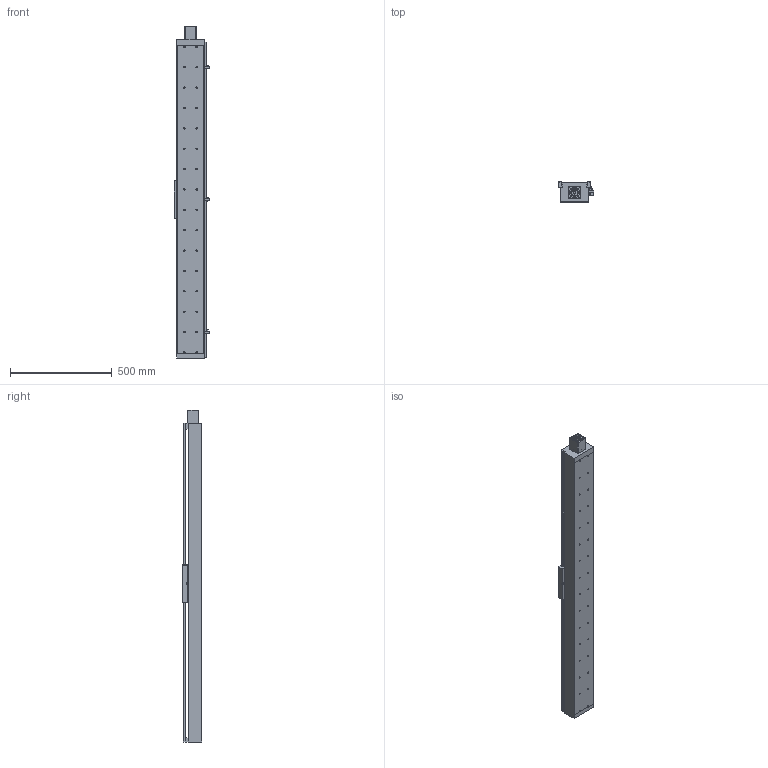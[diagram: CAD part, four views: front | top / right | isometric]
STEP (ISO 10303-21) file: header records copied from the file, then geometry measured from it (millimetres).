
FILE_DESCRIPTION((''),'2;1');
FILE_NAME('E:\libraries\UIA actuator library 2009\standard actuator\UIA136 ball screw 20\UIA136R15NDC stp file 27Apr16\UIA136R15NDC-1300-R20_ _-M60-P13-C10-S.stp','2016-04-27T15:47:51',('h029'),(''),'Autodesk Inventor 11','Autodesk Inventor 11','');
FILE_SCHEMA(('AUTOMOTIVE_DESIGN { 1 0 10303 214 1 1 1 1 }'));
Length unit declared in the file: millimetre
Products named in the file (10): UIA136R15NDC-1300; UIA136R15NDC-body; motor mount F60; SOH-32C; SOH-32C-3; SOH-32C-1; SOH-32C-2; Carriage; Sensor Switch; sensor rail
Assembly tree (9 placements, depth 3):
  UIA136R15NDC-1300
    UIA136R15NDC-body
    motor mount F60
    SOH-32C
      SOH-32C-3
      SOH-32C-1
      SOH-32C-2
    Carriage
    Sensor Switch
    sensor rail
Bounding box: 174.5 x 98 x 1630 mm (x, y, z)
Volume: 5834105.5 mm3; surface area: 1662893.3 mm2
Topology: 8 solids, 8 shells, 543 faces, 1401 edges, 921 vertices
Faces by surface type: plane 313, bspline 186, cylinder 40, cone 4
Full cylindrical faces by diameter (mm): 2.459 x2, 3.242 x2, 4.5 x2, 5.5 x3, 7.5 x2, 10 x2, 12 x1, 14 x1, 32 x3, 37 x1, 41.9 x1, 42.1 x1, 43.5 x1
Entity records: 17851 total; most frequent: CARTESIAN_POINT 5546, ORIENTED_EDGE 2346, DIRECTION 2282, EDGE_CURVE 1173, EDGE_LOOP 869, VERTEX_POINT 856, VECTOR 798, LINE 798
